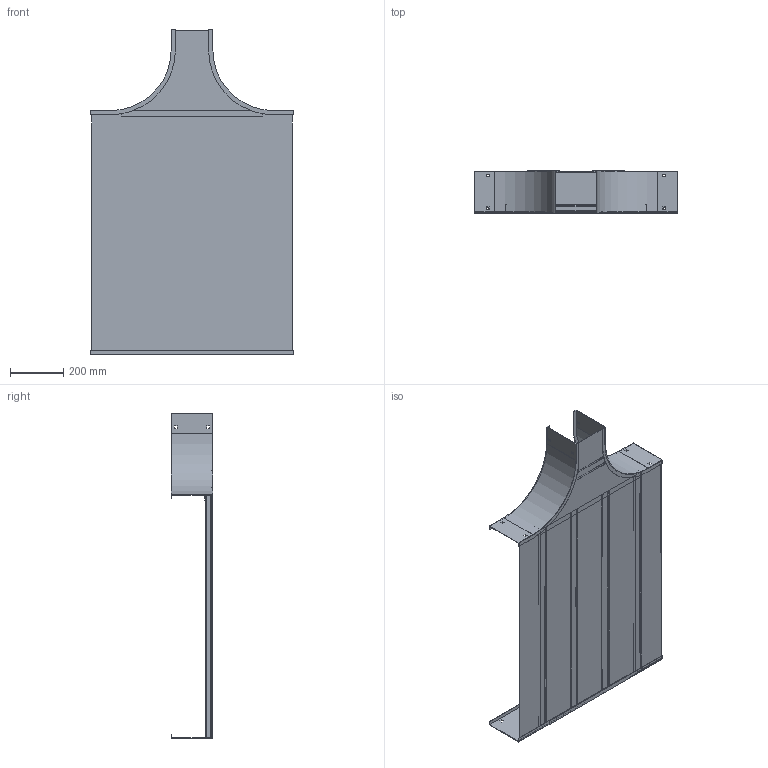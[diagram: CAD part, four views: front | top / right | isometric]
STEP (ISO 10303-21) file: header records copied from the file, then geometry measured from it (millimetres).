
FILE_DESCRIPTION((''),'2;1');
FILE_NAME('AUF63606SRT12_ASM','2010-02-11T',('erouzier'),(''),'PRO/ENGINEER BY PARAMETRIC TECHNOLOGY CORPORATION, 2008510','PRO/ENGINEER BY PARAMETRIC TECHNOLOGY CORPORATION, 2008510','');
FILE_SCHEMA(('CONFIG_CONTROL_DESIGN'));
Length unit declared in the file: inch
Products named in the file (10): CDS001321-6-90-9-I; CDS013843-6-30; CDS000495_GEN_AF7; CDS002159L36_AF7; CDS002159L36_AF8; CDS002159L36_AF9; CDS002159L36_AF10; CDS002159L6_AF1; CDS005002-36-12-6; AUF63606SRT12_ASM
Assembly tree (10 placements, depth 2):
  AUF63606SRT12_ASM
    CDS001321-6-90-9-I  x2
    CDS013843-6-30
    CDS000495_GEN_AF7
    CDS002159L36_AF7
    CDS002159L36_AF8
    CDS002159L36_AF9
    CDS002159L36_AF10
    CDS002159L6_AF1
    CDS005002-36-12-6
Bounding box: 767.08 x 157.23 x 1224.03 mm (x, y, z)
Volume: 2184759.4 mm3; surface area: 3163236.4 mm2
Topology: 10 solids, 10 shells, 266 faces, 738 edges, 492 vertices
Faces by surface type: plane 201, cylinder 65
Entity records: 7659 total; most frequent: CARTESIAN_POINT 1322, ORIENTED_EDGE 1284, DIRECTION 1268, EDGE_CURVE 642, VECTOR 520, LINE 520, VERTEX_POINT 428, AXIS2_PLACEMENT_3D 374
